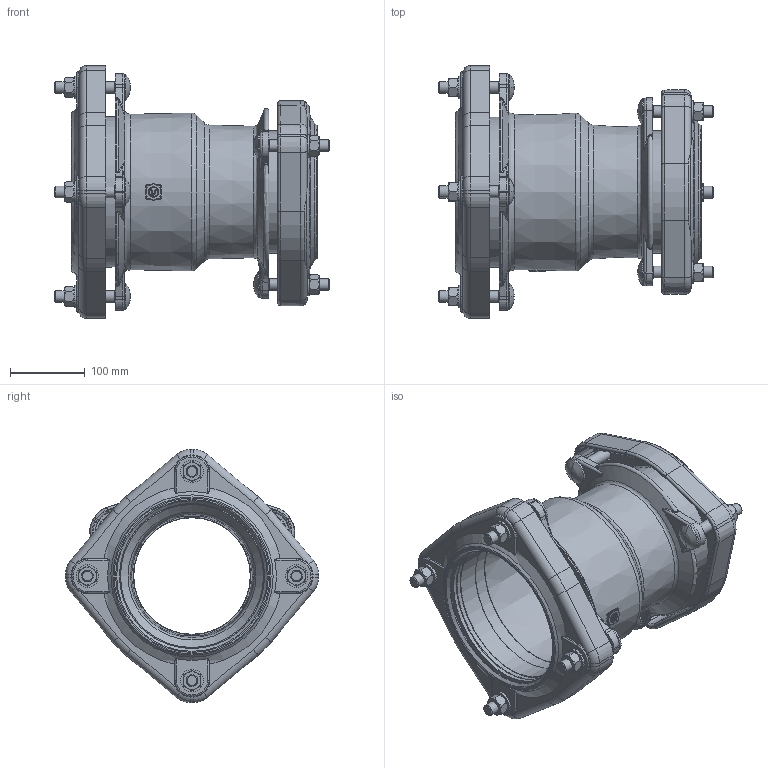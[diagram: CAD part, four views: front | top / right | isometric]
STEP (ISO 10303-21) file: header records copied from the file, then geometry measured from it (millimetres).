
FILE_DESCRIPTION((''),'2;1');
FILE_NAME('P:\Fastrack\54361_VIKING JOHNSON 3D\ULTRAGRIP\Component Parts\Components Built up\Stepped Coupling Assembly\125-150MM-UltraGrip-Stepped-Coupling-Assembly.stp','2012-05-03T09:45:36',('dcole'),(''),'Autodesk Inventor 2008','Autodesk Inventor 2008','');
FILE_SCHEMA(('AUTOMOTIVE_DESIGN { 1 0 10303 214 1 1 1 1 }'));
Length unit declared in the file: millimetre
Products named in the file (1): 125-150MM-UltraGrip-Stepped-Coupling-Assembly
Bounding box: 368 x 338.8 x 338.8 mm (x, y, z)
Volume: 2361660.6 mm3; surface area: 799920.2 mm2
Topology: 1 solids, 1 shells, 1161 faces, 3002 edges, 1878 vertices
Faces by surface type: plane 486, cylinder 299, cone 136, bspline 132, torus 108
Full cylindrical faces by diameter (mm): 13 x1, 15.7 x14, 16 x7, 18.233 x3, 30 x7, 35.2 x7, 156 x1, 157 x1, 158 x1, 164 x1, 191.7 x1, 193.7 x3, 201 x1, 241.07 x1
Entity records: 52552 total; most frequent: CARTESIAN_POINT 24304, ORIENTED_EDGE 5662, DIRECTION 5526, EDGE_CURVE 2831, AXIS2_PLACEMENT_3D 2105, VERTEX_POINT 1825, EDGE_LOOP 1330, VECTOR 1316
